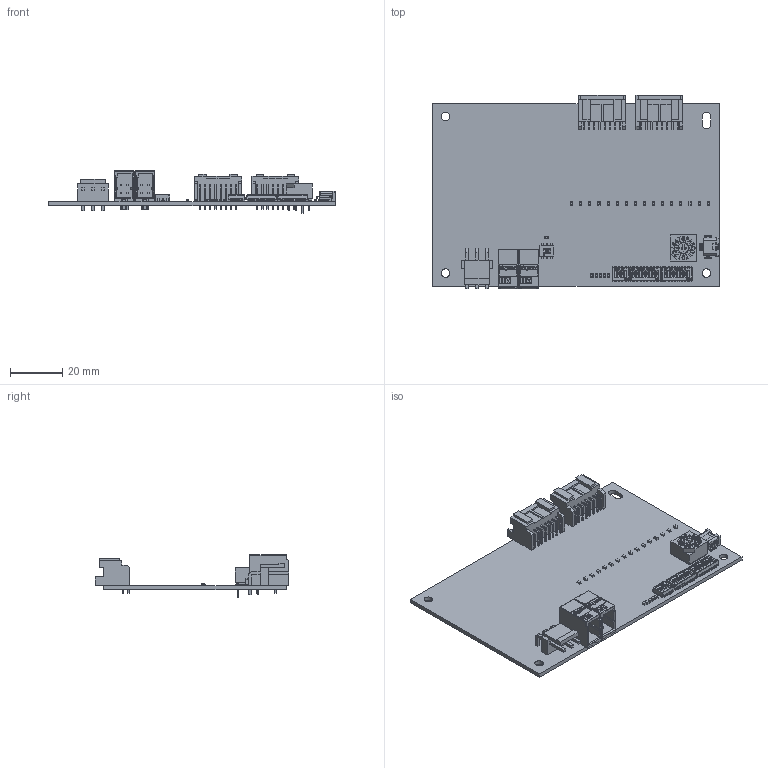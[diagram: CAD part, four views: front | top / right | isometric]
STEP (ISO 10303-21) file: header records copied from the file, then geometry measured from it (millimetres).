
FILE_DESCRIPTION (( 'STEP AP203' ), '1' );
FILE_NAME ('RI-CU-D_260205.STEP', '2026-02-05T07:30:53', ( '' ), ( '' ), 'SwSTEP 2.0', 'SolidWorks 2022', '' );
FILE_SCHEMA (( 'CONFIG_CONTROL_DESIGN' ));
Length unit declared in the file: millimetre
Products named in the file (21): LED_SML-310YT; _2_pole_s_4; ロータリスイッチ_S-1010A_0(ﾃﾞﾌｫﾙﾄ); PCB_RICU_D-1x_230724; コネクタ_B3PS-VH; LED_SML-310MT; c-1-1827876-2-d-3d; LED_SML-310LT; CHS-slider; ディップスイッチ_CAS_220TB; _CHS_slider_4; CHS-04-J-body; _CHS_08_J_body_2; S16B-PADSS-1; ロータリスイッチ_S-1010A_p02; CHS-04TA; ディップスイッチ_CHS-08TA; ロータリスイッチ_S-1010A_p01; _CAS_c_22B_2; RI-CU-D_260205; レセプタクル_MQ172X-4PA-(66)
Assembly tree (52 placements, depth 3):
  RI-CU-D_260205
    PCB_RICU_D-1x_230724
    コネクタ_B3PS-VH
    c-1-1827876-2-d-3d  x2
    S16B-PADSS-1  x2
    レセプタクル_MQ172X-4PA-(66)
    ディップスイッチ_CAS_220TB
      _CAS_c_22B_2
      _2_pole_s_4
    ディップスイッチ_CHS-08TA  x2
      _CHS_08_J_body_2
      _CHS_slider_4
    CHS-04TA
      CHS-slider  x4
      CHS-04-J-body
    ロータリスイッチ_S-1010A_0(ﾃﾞﾌｫﾙﾄ)
      ロータリスイッチ_S-1010A_p01
      ロータリスイッチ_S-1010A_p02
    LED_SML-310MT  x20
    LED_SML-310YT
    LED_SML-310LT
Bounding box: 110 x 74.15 x 16.3 mm (x, y, z)
Volume: 17259.4 mm3; surface area: 24396.9 mm2
Topology: 77 solids, 86 shells, 3689 faces, 9944 edges, 6604 vertices
Faces by surface type: plane 2779, cylinder 793, bspline 97, torus 16, cone 4
Entity records: 78349 total; most frequent: CARTESIAN_POINT 19204, ORIENTED_EDGE 11918, DIRECTION 10932, EDGE_CURVE 6087, VECTOR 4898, LINE 4898, VERTEX_POINT 4047, AXIS2_PLACEMENT_3D 3017
